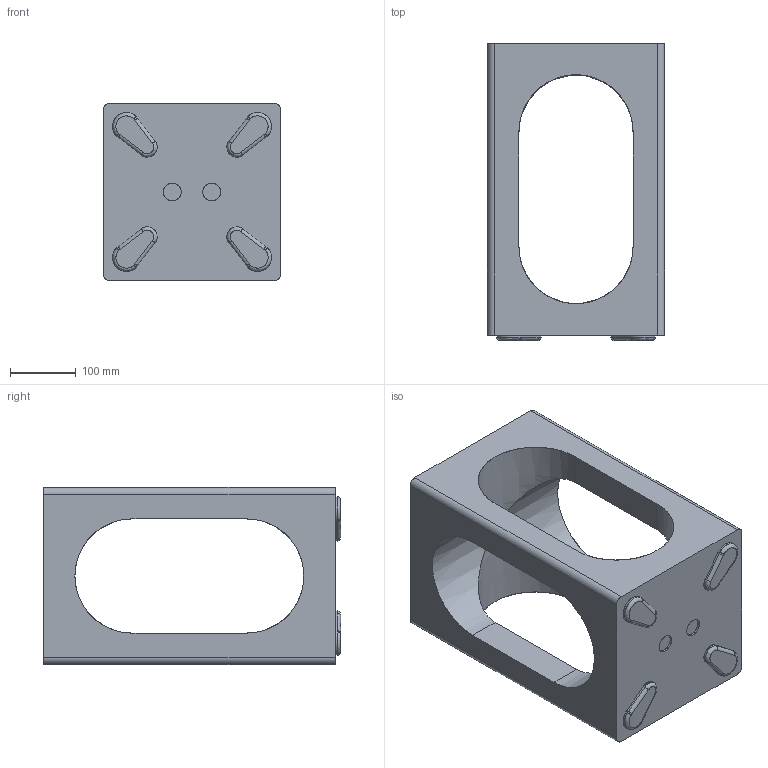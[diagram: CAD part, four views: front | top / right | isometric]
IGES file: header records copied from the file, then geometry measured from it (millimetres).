
Start section: SolidWorks IGES file using analytic representation for surfaces
Global section: file name: C:\Users\David.BDLE\Desktop\sw files\409 Single Side table_va_prmt.IGS; native system: SolidWorks 2016; preprocessor: SolidWorks 2016; author: David; date: 200319.101115; units: millimetre
Bounding box: 270 x 453 x 270 mm (x, y, z)
Surface area: 675659.3 mm2 (no closed solid volume)
Topology: 0 solids, 0 shells, 140 faces, 2368 edges, 2368 vertices
Faces by surface type: bspline 72, revolution 68
